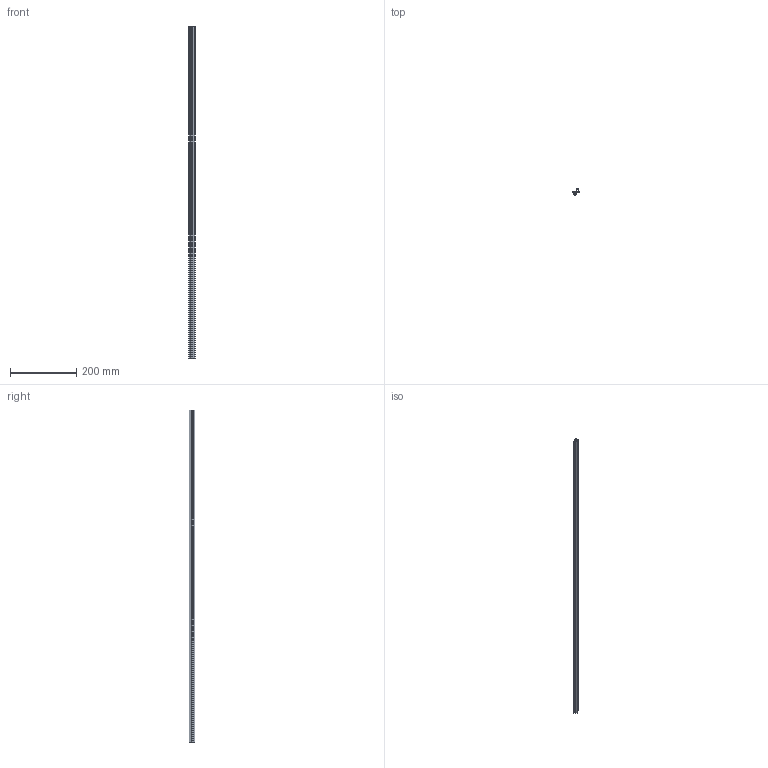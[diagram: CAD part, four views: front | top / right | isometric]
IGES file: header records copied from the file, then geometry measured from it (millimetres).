
Start section: SolidWorks IGES file using analytic representation for surfaces
Global section: file name: C:\Users\admin\Desktop\IGES\J3PCN.igs; native system: SolidWorks 2014; preprocessor: SolidWorks 2014; author: admin_pc; date: 170524.165930; units: millimetre
Bounding box: 18.87 x 18.05 x 1000 mm (x, y, z)
Surface area: 126910.8 mm2 (no closed solid volume)
Topology: 0 solids, 0 shells, 88 faces, 680 edges, 680 vertices
Faces by surface type: bspline 57, revolution 31
